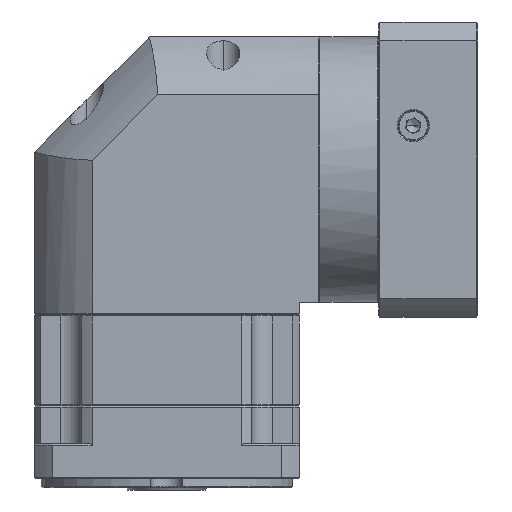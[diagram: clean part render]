
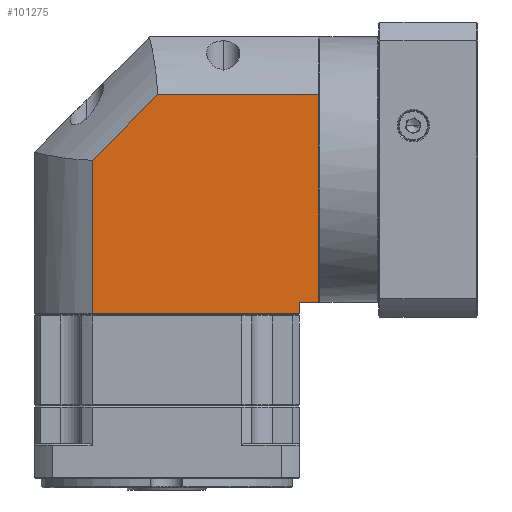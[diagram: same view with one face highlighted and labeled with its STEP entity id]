
A CAD part, front view. The second image highlights one B-rep face of the part: STEP entity #101275.
In plain terms, the highlighted planar face has unit normal (0, -1, 0).
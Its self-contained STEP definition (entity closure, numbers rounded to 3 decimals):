
#847 = ORIENTED_EDGE ( 'NONE', *, *, #96033, .F. ) ;
#4442 = CARTESIAN_POINT ( 'NONE',  ( 94.749, 0.231, -66.365 ) ) ;
#7907 = CARTESIAN_POINT ( 'NONE',  ( -20.251, 0.231, -61.365 ) ) ;
#8273 = VERTEX_POINT ( 'NONE', #21463 ) ;
#9103 = VECTOR ( 'NONE', #125144, 1000. ) ;
#11805 = CARTESIAN_POINT ( 'NONE',  ( 103.149, 0.231, -61.365 ) ) ;
#18860 = LINE ( 'NONE', #127560, #123981 ) ;
#20314 = LINE ( 'NONE', #102867, #9103 ) ;
#21463 = CARTESIAN_POINT ( 'NONE',  ( 33.188, 0.231, 28.534 ) ) ;
#21514 = CARTESIAN_POINT ( 'NONE',  ( 4.849, 0.231, -72.865 ) ) ;
#23538 = VECTOR ( 'NONE', #116532, 1000. ) ;
#27970 = EDGE_CURVE ( 'NONE', #50831, #110884, #113918, .T. ) ;
#28635 = ORIENTED_EDGE ( 'NONE', *, *, #27970, .F. ) ;
#30498 = VERTEX_POINT ( 'NONE', #104242 ) ;
#30785 = VECTOR ( 'NONE', #46571, 1000. ) ;
#31887 = AXIS2_PLACEMENT_3D ( 'NONE', #96445, #106251, #116969 ) ;
#32389 = ORIENTED_EDGE ( 'NONE', *, *, #109842, .F. ) ;
#32460 = CARTESIAN_POINT ( 'NONE',  ( -20.251, 0.231, 28.534 ) ) ;
#41432 = CARTESIAN_POINT ( 'NONE',  ( 4.849, 0.231, -66.365 ) ) ;
#42325 = DIRECTION ( 'NONE',  ( 0., 0., 1. ) ) ;
#46571 = DIRECTION ( 'NONE',  ( -1., 0., 0. ) ) ;
#48784 = ORIENTED_EDGE ( 'NONE', *, *, #97055, .F. ) ;
#49591 = ORIENTED_EDGE ( 'NONE', *, *, #84235, .F. ) ;
#50297 = VERTEX_POINT ( 'NONE', #101364 ) ;
#50831 = VERTEX_POINT ( 'NONE', #41432 ) ;
#51706 = EDGE_LOOP ( 'NONE', ( #49591, #32389, #122421, #48784, #128342, #28635, #847 ) ) ;
#52598 = EDGE_CURVE ( 'NONE', #30498, #56551, #20314, .T. ) ;
#56551 = VERTEX_POINT ( 'NONE', #11805 ) ;
#64889 = CARTESIAN_POINT ( 'NONE',  ( 94.749, 0.231, -72.865 ) ) ;
#82386 = CARTESIAN_POINT ( 'NONE',  ( 4.849, 0.231, 0.196 ) ) ;
#84235 = EDGE_CURVE ( 'NONE', #50297, #95558, #125483, .T. ) ;
#93369 = VECTOR ( 'NONE', #112690, 1000. ) ;
#94903 = VECTOR ( 'NONE', #42325, 1000. ) ;
#95558 = VERTEX_POINT ( 'NONE', #4442 ) ;
#96033 = EDGE_CURVE ( 'NONE', #95558, #50831, #18860, .T. ) ;
#96445 = CARTESIAN_POINT ( 'NONE',  ( -20.251, 0.231, -72.865 ) ) ;
#97055 = EDGE_CURVE ( 'NONE', #8273, #30498, #120437, .T. ) ;
#101275 = ADVANCED_FACE ( 'NONE', ( #107916 ), #127592, .F. ) ;
#101364 = CARTESIAN_POINT ( 'NONE',  ( 94.749, 0.231, -61.365 ) ) ;
#102867 = CARTESIAN_POINT ( 'NONE',  ( 103.149, 0.231, -72.865 ) ) ;
#104242 = CARTESIAN_POINT ( 'NONE',  ( 103.149, 0.231, 28.534 ) ) ;
#106251 = DIRECTION ( 'NONE',  ( 0., 1., 0. ) ) ;
#107916 = FACE_OUTER_BOUND ( 'NONE', #51706, .T. ) ;
#108818 = DIRECTION ( 'NONE',  ( -1., 0., 0. ) ) ;
#108874 = LINE ( 'NONE', #7907, #30785 ) ;
#109842 = EDGE_CURVE ( 'NONE', #56551, #50297, #108874, .T. ) ;
#109978 = VECTOR ( 'NONE', #113038, 1000. ) ;
#110884 = VERTEX_POINT ( 'NONE', #130462 ) ;
#112690 = DIRECTION ( 'NONE',  ( 1., 0., 0. ) ) ;
#113038 = DIRECTION ( 'NONE',  ( 0.707, 0., 0.707 ) ) ;
#113918 = LINE ( 'NONE', #21514, #94903 ) ;
#116532 = DIRECTION ( 'NONE',  ( 0., 0., -1. ) ) ;
#116969 = DIRECTION ( 'NONE',  ( 1., 0., 0. ) ) ;
#120437 = LINE ( 'NONE', #32460, #93369 ) ;
#122421 = ORIENTED_EDGE ( 'NONE', *, *, #52598, .F. ) ;
#123981 = VECTOR ( 'NONE', #108818, 1000. ) ;
#125144 = DIRECTION ( 'NONE',  ( 0., 0., -1. ) ) ;
#125483 = LINE ( 'NONE', #64889, #23538 ) ;
#127492 = LINE ( 'NONE', #82386, #109978 ) ;
#127560 = CARTESIAN_POINT ( 'NONE',  ( -20.251, 0.231, -66.365 ) ) ;
#127592 = PLANE ( 'NONE',  #31887 ) ;
#127656 = EDGE_CURVE ( 'NONE', #110884, #8273, #127492, .T. ) ;
#128342 = ORIENTED_EDGE ( 'NONE', *, *, #127656, .F. ) ;
#130462 = CARTESIAN_POINT ( 'NONE',  ( 4.849, 0.231, 0.196 ) ) ;
